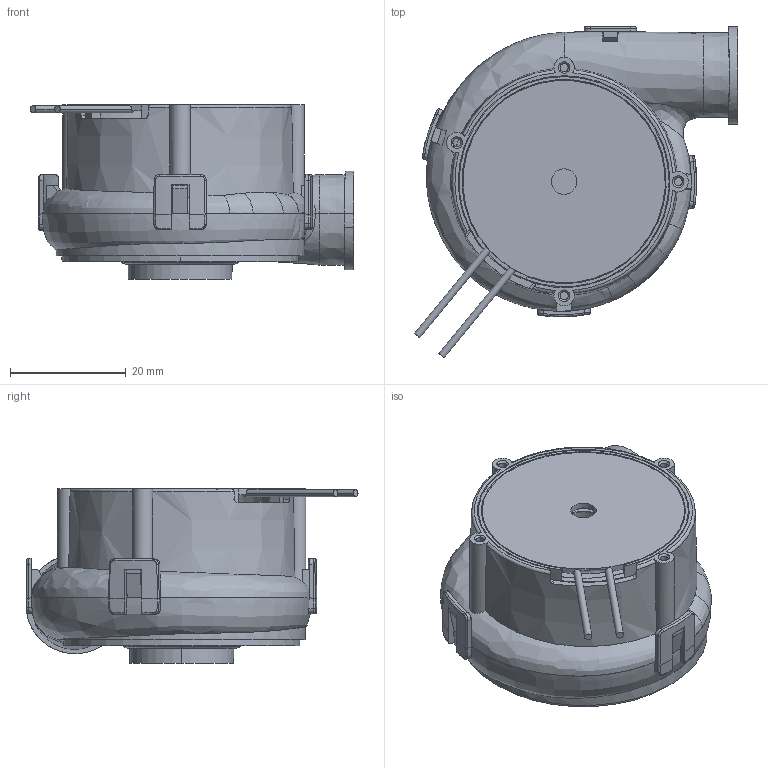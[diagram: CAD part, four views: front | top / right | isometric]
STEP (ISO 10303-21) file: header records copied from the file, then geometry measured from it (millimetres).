
FILE_DESCRIPTION((''),'2;1');
FILE_NAME('V1212-4_32_9','2026-09-09T08:33:02',('pc'),(''),'CREO PARAMETRIC BY PTC INC, 2018050','CREO PARAMETRIC BY PTC INC, 2018050','');
FILE_SCHEMA(('CONFIG_CONTROL_DESIGN','GEOMETRIC_VALIDATION_PROPERTIES_MIM'));
Length unit declared in the file: millimetre
Products named in the file (1): V1212-4_32_9
Bounding box: 55.88 x 57.37 x 30.1 mm (x, y, z)
Volume: 36869.9 mm3; surface area: 12709.1 mm2
Topology: 1 solids, 1 shells, 311 faces, 850 edges, 545 vertices
Faces by surface type: plane 101, cylinder 89, bspline 53, cone 44, torus 14, extrusion 8, revolution 2
Entity records: 20829 total; most frequent: CARTESIAN_POINT 9976, ORIENTED_EDGE 1700, DIRECTION 1193, PRESENTATION_STYLE_ASSIGNMENT 991, STYLED_ITEM 852, CURVE_STYLE 851, EDGE_CURVE 850, VERTEX_POINT 545
